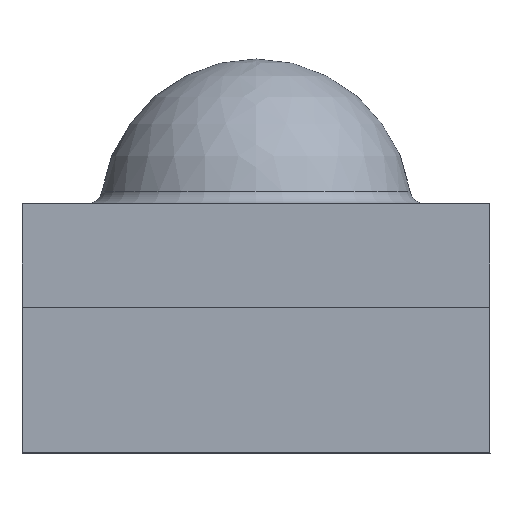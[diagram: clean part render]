
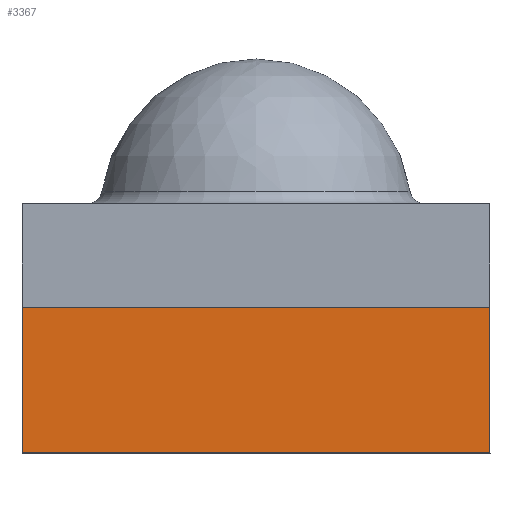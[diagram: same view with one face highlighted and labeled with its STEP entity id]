
A CAD part, left-side view. The second image highlights one B-rep face of the part: STEP entity #3367.
In plain terms, the highlighted planar face has unit normal (-1, 0, 0).
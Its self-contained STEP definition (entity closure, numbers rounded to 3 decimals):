
#122=FACE_OUTER_BOUND('',#288,.T.);
#288=EDGE_LOOP('',(#2390,#2391,#2392,#2393));
#424=LINE('',#4726,#796);
#466=LINE('',#4819,#838);
#499=LINE('',#5209,#871);
#515=LINE('',#5253,#887);
#796=VECTOR('',#3804,10.);
#838=VECTOR('',#3856,10.);
#871=VECTOR('',#3971,10.);
#887=VECTOR('',#4005,10.);
#1280=VERTEX_POINT('',#4723);
#1281=VERTEX_POINT('',#4725);
#1326=VERTEX_POINT('',#4816);
#1327=VERTEX_POINT('',#4818);
#1618=EDGE_CURVE('',#1281,#1280,#424,.T.);
#1664=EDGE_CURVE('',#1326,#1327,#466,.T.);
#1733=EDGE_CURVE('',#1280,#1327,#499,.T.);
#1755=EDGE_CURVE('',#1326,#1281,#515,.T.);
#2390=ORIENTED_EDGE('',*,*,#1733,.T.);
#2391=ORIENTED_EDGE('',*,*,#1664,.F.);
#2392=ORIENTED_EDGE('',*,*,#1755,.T.);
#2393=ORIENTED_EDGE('',*,*,#1618,.T.);
#3128=PLANE('',#3594);
#3367=ADVANCED_FACE('',(#122),#3128,.T.);
#3594=AXIS2_PLACEMENT_3D('',#5342,#4070,#4071);
#3804=DIRECTION('',(0.,0.,1.));
#3856=DIRECTION('',(0.,0.,1.));
#3971=DIRECTION('',(0.,1.,0.));
#4005=DIRECTION('',(0.,-1.,0.));
#4070=DIRECTION('center_axis',(-1.,0.,0.));
#4071=DIRECTION('ref_axis',(0.,-1.,0.));
#4723=CARTESIAN_POINT('',(-2.2,-1.125,0.7));
#4725=CARTESIAN_POINT('',(-2.2,-1.125,0.));
#4726=CARTESIAN_POINT('',(-2.2,-1.125,0.));
#4816=CARTESIAN_POINT('',(-2.2,1.125,0.));
#4818=CARTESIAN_POINT('',(-2.2,1.125,0.7));
#4819=CARTESIAN_POINT('',(-2.2,1.125,0.));
#5209=CARTESIAN_POINT('',(-2.2,0.,0.7));
#5253=CARTESIAN_POINT('',(-2.2,1.125,0.));
#5342=CARTESIAN_POINT('Origin',(-2.2,1.125,0.));
